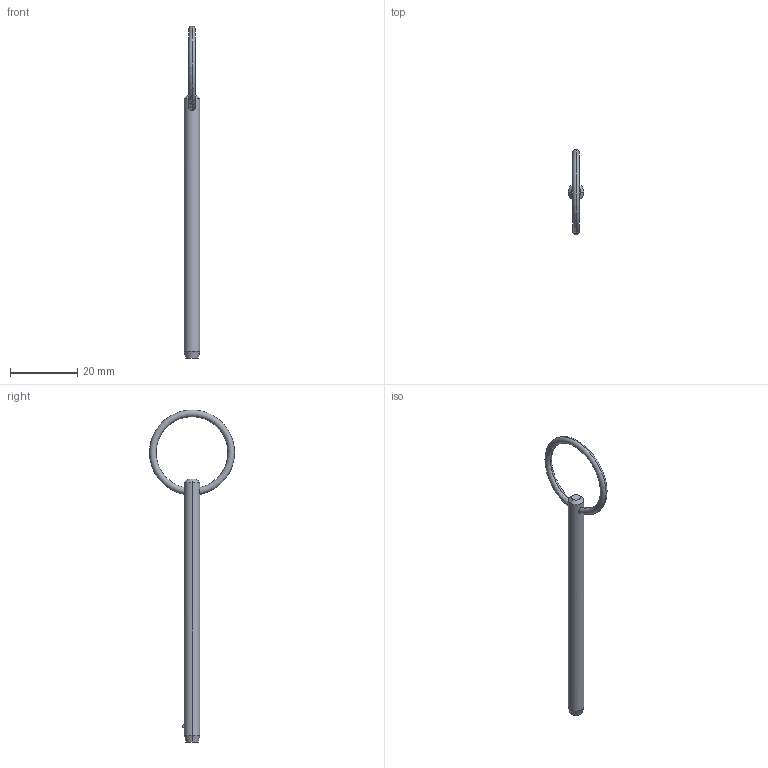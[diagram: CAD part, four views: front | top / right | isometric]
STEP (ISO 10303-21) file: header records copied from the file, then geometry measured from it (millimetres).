
FILE_DESCRIPTION (( 'STEP AP203' ), '1' );
FILE_NAME ('P1250.018-270.step', '2019-07-29T19:34:44', ( '' ), ( '' ), 'SwSTEP 2.0', 'SolidWorks 2017', '' );
FILE_SCHEMA (( 'CONFIG_CONTROL_DESIGN' ));
Length unit declared in the file: millimetre
Products named in the file (1): P1250.018-270
Bounding box: 4.76 x 25.4 x 99.08 mm (x, y, z)
Volume: 1598.1 mm3; surface area: 1615.9 mm2
Topology: 1 solids, 1 shells, 12 faces, 28 edges, 17 vertices
Faces by surface type: cone 4, torus 2, sphere 2, cylinder 2, plane 2
Entity records: 471 total; most frequent: CARTESIAN_POINT 138, DIRECTION 56, ORIENTED_EDGE 48, AXIS2_PLACEMENT_3D 25, EDGE_CURVE 24, VERTEX_POINT 15, EDGE_LOOP 15, FACE_OUTER_BOUND 12
